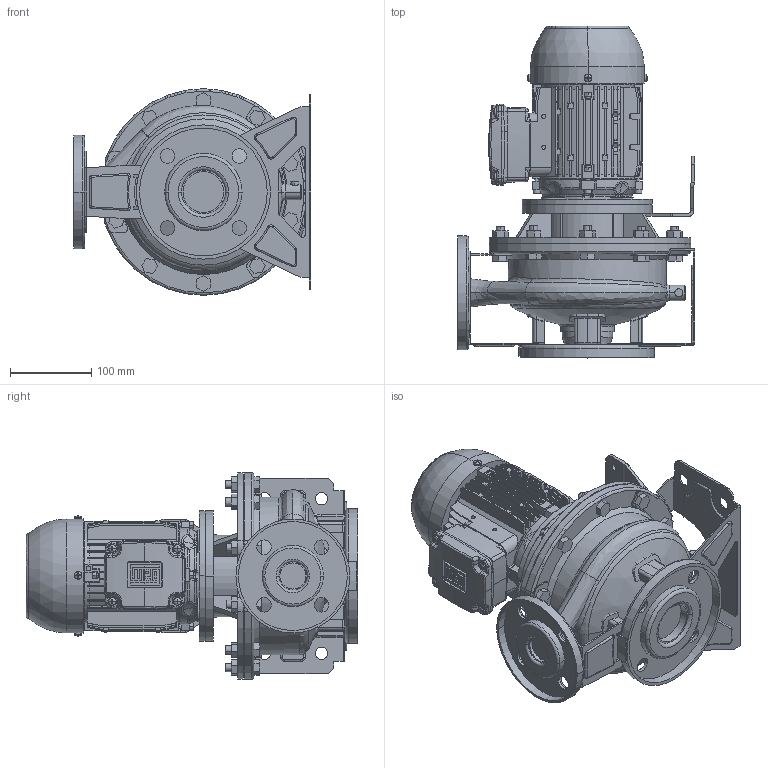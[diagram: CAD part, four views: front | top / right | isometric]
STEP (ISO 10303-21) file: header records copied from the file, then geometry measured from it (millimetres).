
FILE_DESCRIPTION (( 'STEP AP214' ), '1' );
FILE_NAME ('3LS4 32-160_0.37_(71)_W21.STEP', '2026-10-05T01:13:27', ( '' ), ( '' ), 'SwSTEP 2.0', 'SolidWorks 2024', '' );
FILE_SCHEMA (( 'AUTOMOTIVE_DESIGN' ));
Length unit declared in the file: inch
Products named in the file (3): 71 ALIE3_W21_B5; 3LS4 32-160_0.37_(71)_W21; 3SF4_32-160_0_37
Assembly tree (2 placements, depth 2):
  3LS4 32-160_0.37_(71)_W21
    3SF4_32-160_0_37
    71 ALIE3_W21_B5
Bounding box: 292 x 408 x 254 mm (x, y, z)
Volume: 7122031.3 mm3; surface area: 947449.9 mm2
Topology: 12 solids, 18 shells, 2777 faces, 7356 edges, 4782 vertices
Faces by surface type: plane 1701, cylinder 647, bspline 145, torus 119, cone 115, sphere 50
Entity records: 119364 total; most frequent: CARTESIAN_POINT 51296, ORIENTED_EDGE 14696, DIRECTION 13362, EDGE_CURVE 7348, VERTEX_POINT 4782, LINE 4664, VECTOR 4664, AXIS2_PLACEMENT_3D 4349
